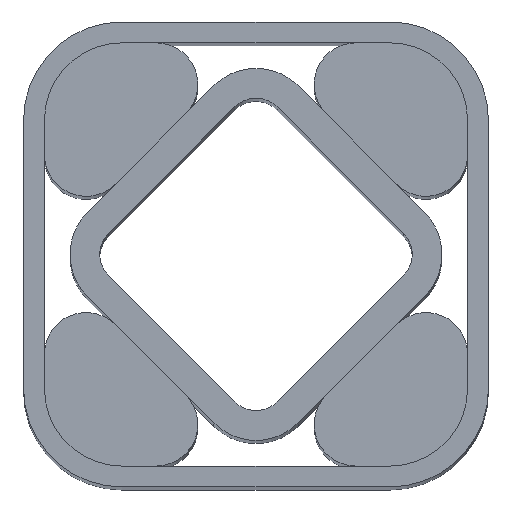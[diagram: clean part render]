
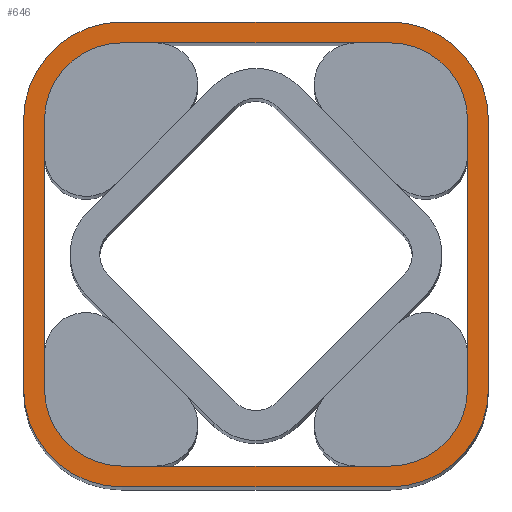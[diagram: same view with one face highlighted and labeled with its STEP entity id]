
A CAD part, top view. The second image highlights one B-rep face of the part: STEP entity #646.
In plain terms, the highlighted planar face has unit normal (0, 0, 1).
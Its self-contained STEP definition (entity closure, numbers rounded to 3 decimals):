
#88=CARTESIAN_POINT('',(-35.5,22.5,300.0));
#89=VERTEX_POINT('',#88);
#90=CARTESIAN_POINT('',(-22.5,35.5,300.0));
#91=VERTEX_POINT('',#90);
#92=CARTESIAN_POINT('',(-22.5,22.5,300.0));
#93=DIRECTION('',(0.0,0.0,-1.));
#94=DIRECTION('',(0.,1.,0.0));
#95=AXIS2_PLACEMENT_3D('',#92,#93,#94);
#96=CIRCLE('',#95,13.0);
#97=EDGE_CURVE('',#89,#91,#96,.T.);
#130=CARTESIAN_POINT('',(22.5,35.5,300.0));
#131=VERTEX_POINT('',#130);
#132=CARTESIAN_POINT('',(-22.5,35.5,300.0));
#133=DIRECTION('',(1.0,0.0,0.0));
#134=VECTOR('',#133,45.);
#135=LINE('',#132,#134);
#136=EDGE_CURVE('',#91,#131,#135,.T.);
#161=CARTESIAN_POINT('',(35.5,22.5,300.0));
#162=VERTEX_POINT('',#161);
#163=CARTESIAN_POINT('',(22.5,22.5,300.0));
#164=DIRECTION('',(0.0,0.0,-1.));
#165=DIRECTION('',(1.,0.,0.0));
#166=AXIS2_PLACEMENT_3D('',#163,#164,#165);
#167=CIRCLE('',#166,13.0);
#168=EDGE_CURVE('',#131,#162,#167,.T.);
#194=CARTESIAN_POINT('',(35.5,-22.5,300.0));
#195=VERTEX_POINT('',#194);
#196=CARTESIAN_POINT('',(35.5,22.5,300.0));
#197=DIRECTION('',(0.0,-1.0,0.0));
#198=VECTOR('',#197,45.);
#199=LINE('',#196,#198);
#200=EDGE_CURVE('',#162,#195,#199,.T.);
#225=CARTESIAN_POINT('',(22.5,-35.5,300.0));
#226=VERTEX_POINT('',#225);
#227=CARTESIAN_POINT('',(22.5,-22.5,300.0));
#228=DIRECTION('',(0.0,0.0,-1.));
#229=DIRECTION('',(0.,-1.,0.0));
#230=AXIS2_PLACEMENT_3D('',#227,#228,#229);
#231=CIRCLE('',#230,13.0);
#232=EDGE_CURVE('',#195,#226,#231,.T.);
#258=CARTESIAN_POINT('',(-22.5,-35.5,300.0));
#259=VERTEX_POINT('',#258);
#260=CARTESIAN_POINT('',(22.5,-35.5,300.0));
#261=DIRECTION('',(-1.0,0.0,0.0));
#262=VECTOR('',#261,45.);
#263=LINE('',#260,#262);
#264=EDGE_CURVE('',#226,#259,#263,.T.);
#289=CARTESIAN_POINT('',(-35.5,-22.5,300.0));
#290=VERTEX_POINT('',#289);
#291=CARTESIAN_POINT('',(-22.5,-22.5,300.0));
#292=DIRECTION('',(0.0,0.0,-1.0));
#293=DIRECTION('',(-1.,0.,0.0));
#294=AXIS2_PLACEMENT_3D('',#291,#292,#293);
#295=CIRCLE('',#294,13.);
#296=EDGE_CURVE('',#259,#290,#295,.T.);
#322=CARTESIAN_POINT('',(-35.5,-22.5,300.0));
#323=DIRECTION('',(0.0,1.0,0.0));
#324=VECTOR('',#323,45.);
#325=LINE('',#322,#324);
#326=EDGE_CURVE('',#290,#89,#325,.T.);
#344=CARTESIAN_POINT('',(39.,-22.5,300.0));
#345=VERTEX_POINT('',#344);
#346=CARTESIAN_POINT('',(22.5,-39.,300.0));
#347=VERTEX_POINT('',#346);
#348=CARTESIAN_POINT('',(22.5,-22.5,300.0));
#349=DIRECTION('',(0.0,0.0,-1.));
#350=DIRECTION('',(0.,-1.,0.0));
#351=AXIS2_PLACEMENT_3D('',#348,#349,#350);
#352=CIRCLE('',#351,16.5);
#353=EDGE_CURVE('',#345,#347,#352,.T.);
#386=CARTESIAN_POINT('',(-22.5,-39.,300.0));
#387=VERTEX_POINT('',#386);
#388=CARTESIAN_POINT('',(22.5,-39.,300.0));
#389=DIRECTION('',(-1.0,0.0,0.0));
#390=VECTOR('',#389,45.);
#391=LINE('',#388,#390);
#392=EDGE_CURVE('',#347,#387,#391,.T.);
#417=CARTESIAN_POINT('',(-39.,-22.5,300.0));
#418=VERTEX_POINT('',#417);
#419=CARTESIAN_POINT('',(-22.5,-22.5,300.0));
#420=DIRECTION('',(0.0,0.0,-1.));
#421=DIRECTION('',(-1.,0.,0.0));
#422=AXIS2_PLACEMENT_3D('',#419,#420,#421);
#423=CIRCLE('',#422,16.5);
#424=EDGE_CURVE('',#387,#418,#423,.T.);
#450=CARTESIAN_POINT('',(-39.,22.5,300.0));
#451=VERTEX_POINT('',#450);
#452=CARTESIAN_POINT('',(-39.,-22.5,300.0));
#453=DIRECTION('',(0.0,1.0,0.0));
#454=VECTOR('',#453,45.);
#455=LINE('',#452,#454);
#456=EDGE_CURVE('',#418,#451,#455,.T.);
#481=CARTESIAN_POINT('',(-22.5,39.,300.0));
#482=VERTEX_POINT('',#481);
#483=CARTESIAN_POINT('',(-22.5,22.5,300.0));
#484=DIRECTION('',(0.0,0.0,-1.));
#485=DIRECTION('',(0.,1.,0.0));
#486=AXIS2_PLACEMENT_3D('',#483,#484,#485);
#487=CIRCLE('',#486,16.5);
#488=EDGE_CURVE('',#451,#482,#487,.T.);
#514=CARTESIAN_POINT('',(22.5,39.,300.0));
#515=VERTEX_POINT('',#514);
#516=CARTESIAN_POINT('',(-22.5,39.,300.0));
#517=DIRECTION('',(1.0,0.0,0.0));
#518=VECTOR('',#517,45.);
#519=LINE('',#516,#518);
#520=EDGE_CURVE('',#482,#515,#519,.T.);
#545=CARTESIAN_POINT('',(39.,22.5,300.0));
#546=VERTEX_POINT('',#545);
#547=CARTESIAN_POINT('',(22.5,22.5,300.0));
#548=DIRECTION('',(0.0,0.0,-1.));
#549=DIRECTION('',(1.,0.,0.0));
#550=AXIS2_PLACEMENT_3D('',#547,#548,#549);
#551=CIRCLE('',#550,16.5);
#552=EDGE_CURVE('',#515,#546,#551,.T.);
#578=CARTESIAN_POINT('',(39.,22.5,300.0));
#579=DIRECTION('',(0.0,-1.0,0.0));
#580=VECTOR('',#579,45.);
#581=LINE('',#578,#580);
#582=EDGE_CURVE('',#546,#345,#581,.T.);
#621=CARTESIAN_POINT('',(0.,0.,300.0));
#622=DIRECTION('',(0.0,0.0,1.0));
#623=DIRECTION('',(1.0,0.0,0.0));
#624=AXIS2_PLACEMENT_3D('',#621,#622,#623);
#625=PLANE('',#624);
#626=ORIENTED_EDGE('',*,*,#353,.F.);
#627=ORIENTED_EDGE('',*,*,#582,.F.);
#628=ORIENTED_EDGE('',*,*,#552,.F.);
#629=ORIENTED_EDGE('',*,*,#520,.F.);
#630=ORIENTED_EDGE('',*,*,#488,.F.);
#631=ORIENTED_EDGE('',*,*,#456,.F.);
#632=ORIENTED_EDGE('',*,*,#424,.F.);
#633=ORIENTED_EDGE('',*,*,#392,.F.);
#634=EDGE_LOOP('',(#626,#627,#628,#629,#630,#631,#632,#633));
#635=FACE_OUTER_BOUND('',#634,.T.);
#636=ORIENTED_EDGE('',*,*,#97,.T.);
#637=ORIENTED_EDGE('',*,*,#136,.T.);
#638=ORIENTED_EDGE('',*,*,#168,.T.);
#639=ORIENTED_EDGE('',*,*,#200,.T.);
#640=ORIENTED_EDGE('',*,*,#232,.T.);
#641=ORIENTED_EDGE('',*,*,#264,.T.);
#642=ORIENTED_EDGE('',*,*,#296,.T.);
#643=ORIENTED_EDGE('',*,*,#326,.T.);
#644=EDGE_LOOP('',(#636,#637,#638,#639,#640,#641,#642,#643));
#645=FACE_BOUND('',#644,.T.);
#646=ADVANCED_FACE('',(#635,#645),#625,.T.);
